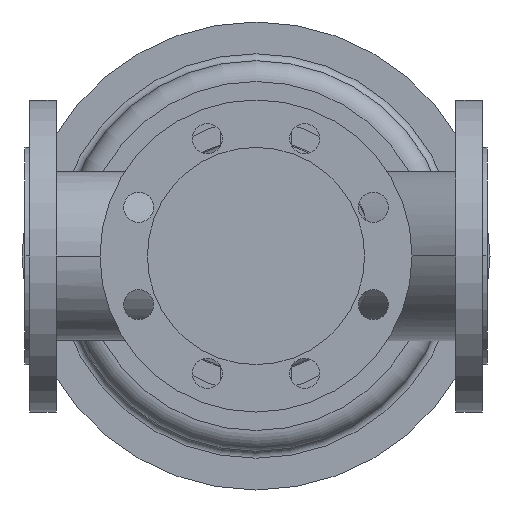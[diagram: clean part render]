
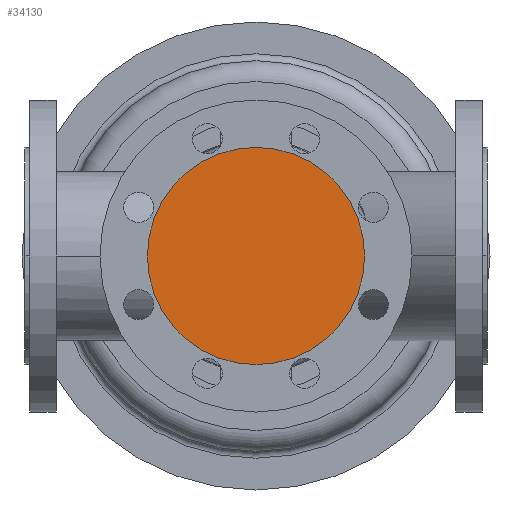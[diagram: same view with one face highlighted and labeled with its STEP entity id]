
A CAD part, front view. The second image highlights one B-rep face of the part: STEP entity #34130.
In plain terms, the highlighted planar face has unit normal (0, -1, 0).
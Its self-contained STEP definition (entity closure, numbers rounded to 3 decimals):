
#5070=CARTESIAN_POINT('',(294.,-200.,0.));
#5080=VERTEX_POINT('',#5070);
#5240=CARTESIAN_POINT('',(106.,-200.,0.));
#5250=VERTEX_POINT('',#5240);
#5280=CARTESIAN_POINT('',(200.,-200.,0.));
#5290=DIRECTION('',(0.,1.,0.));
#5300=DIRECTION('',(1.,0.,0.));
#5310=AXIS2_PLACEMENT_3D('',#5280,#5290,#5300);
#5320=CIRCLE('',#5310,94.);
#5330=EDGE_CURVE('',#5080,#5250,#5320,.T.);
#34030=CARTESIAN_POINT('',(247.,-200.,0.));
#34040=DIRECTION('',(0.,-1.,0.));
#34050=DIRECTION('',(-1.,0.,0.));
#34060=AXIS2_PLACEMENT_3D('',#34030,#34040,#34050);
#34070=PLANE('',#34060);
#34080=EDGE_CURVE('',#5250,#5080,#5320,.T.);
#34090=ORIENTED_EDGE('',*,*,#34080,.F.);
#34100=ORIENTED_EDGE('',*,*,#5330,.F.);
#34110=EDGE_LOOP('',(#34100,#34090));
#34120=FACE_OUTER_BOUND('',#34110,.T.);
#34130=ADVANCED_FACE('',(#34120),#34070,.T.);
